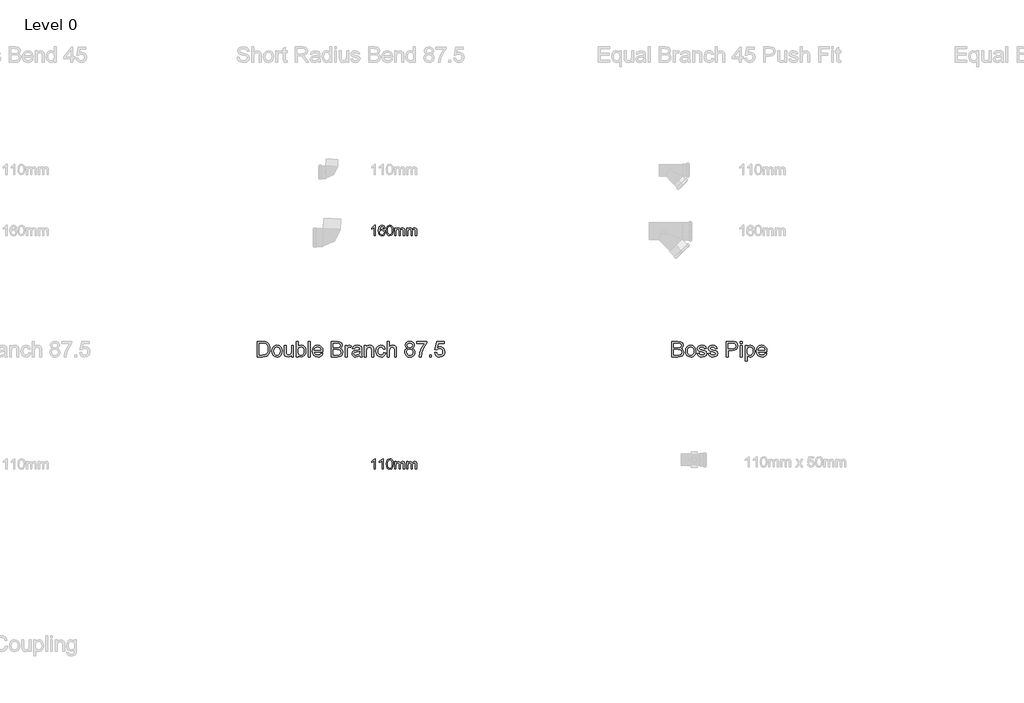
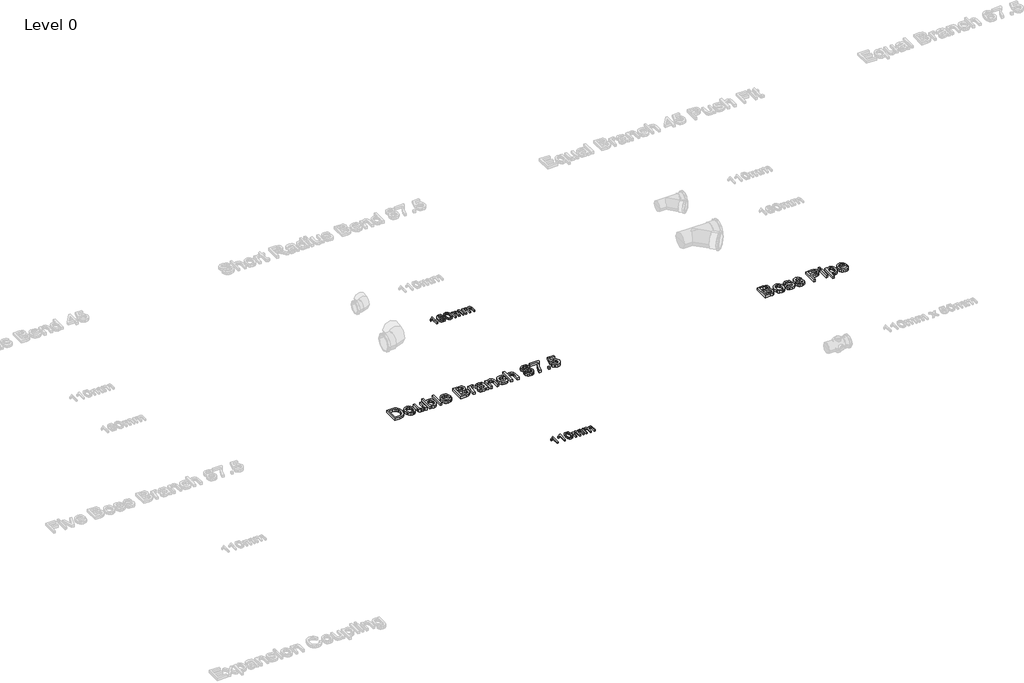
# One storey, part 10 of 15: 4 proxies.
"""IFC4 building model written with IfcOpenShell, lengths in millimetres."""

from ifc_helpers import new_model, si_unit, origin, origin_with_axes, place, context, project, spatial, polyline, outline, extrude, element, save

model = new_model("IFC4")

# Units and contexts
model_context = context("Model", 3, world=origin())
ifc_project = project(units=[si_unit("LENGTHUNIT", "METRE", prefix="MILLI")], contexts=[model_context])

# Site, building, storey
site = spatial("IfcSite", under=ifc_project)
building = spatial("IfcBuilding", under=site)
storey = spatial("IfcBuildingStorey", under=building, Name="Level 0", Elevation=0.0)

# Proxies
placement = place(None, origin())
element("IfcBuildingElementProxy", 1, Name="100mm Arial", ObjectType="100mm Arial", at=placement, inside=storey, context=model_context, shape_type="SweptSolid", body=[
    extrude(outline(polyline([(-3291.7293188, 5437.7167304), (-3304.0370111, 5437.7167304), (-3304.0370111, 5514.4474996), (-3315.6956649, 5506.1422111), (-3328.6523957, 5499.9282688), (-3328.6523957, 5511.5628842), (-3310.6115303, 5523.0773073), (-3299.6620111, 5536.1782688), (-3291.7293188, 5536.1782688), (-3291.7293188, 5437.7167304)])), origin_with_axes(), (0.0, 0.0, 1.0), 15.0),
    extrude(outline(polyline([(-3216.3447034, 5437.7167304), (-3228.6523957, 5437.7167304), (-3228.6523957, 5514.4474996), (-3240.3110495, 5506.1422111), (-3253.2677803, 5499.9282688), (-3253.2677803, 5511.5628842), (-3235.2269149, 5523.0773073), (-3224.2773957, 5536.1782688), (-3216.3447034, 5536.1782688), (-3216.3447034, 5437.7167304)])), origin_with_axes(), (0.0, 0.0, 1.0), 15.0),
    extrude(outline(polyline([(-3187.1139341, 5486.1542304), (-3183.4961457, 5514.4835573), (-3172.7509534, 5530.8176919), (-3154.8062418, 5536.1782688), (-3140.4312418, 5533.0051919), (-3130.5033572, 5523.8585573), (-3124.7341264, 5509.2912496), (-3122.4985495, 5486.1542304), (-3126.0802803, 5457.9450958), (-3136.7894149, 5441.5749035), (-3154.8062418, 5436.1782688), (-3167.5947034, 5438.5220188), (-3177.3062418, 5445.5532688), (-3184.6620111, 5462.2059131), (-3187.1139341, 5486.1542304)]), holes=[polyline([(-3174.8062418, 5486.1782688), (-3173.3639341, 5466.8182929), (-3169.0370111, 5455.613365), (-3162.5947034, 5450.2678121), (-3154.8062418, 5448.4859611), (-3147.0177803, 5450.2738217), (-3140.5754726, 5455.6374035), (-3136.2485495, 5466.848341), (-3134.8062418, 5486.1782688), (-3136.2004726, 5505.1025477), (-3140.3831649, 5516.394615), (-3146.8134534, 5522.0015861), (-3154.9504726, 5523.8705765), (-3162.6547995, 5522.2239419), (-3168.8447034, 5517.2840381), (-3173.3158572, 5505.2888458), (-3174.8062418, 5486.1782688)])]), origin_with_axes(), (0.0, 0.0, 1.0), 15.0),
    extrude(outline(polyline([(-3108.6523957, 5437.7167304), (-3108.6523957, 5510.0244227), (-3096.3447034, 5510.0244227), (-3096.3447034, 5498.1253842), (-3087.8831649, 5507.8729804), (-3075.8398957, 5511.5628842), (-3063.5081649, 5507.800865), (-3056.7293188, 5497.2599996), (-3047.1259534, 5507.9871631), (-3034.9985495, 5511.5628842), (-3025.7467466, 5510.0755044), (-3018.9047995, 5505.613365), (-3014.6770351, 5498.0562736), (-3013.2677803, 5487.2840381), (-3013.2677803, 5437.7167304), (-3025.5754726, 5437.7167304), (-3025.5754726, 5481.9955765), (-3026.7172995, 5492.2720188), (-3030.8519149, 5497.332115), (-3037.8831649, 5499.2551919), (-3049.9865303, 5494.3273073), (-3054.8062418, 5478.5340381), (-3054.8062418, 5437.7167304), (-3067.1139341, 5437.7167304), (-3067.1139341, 5483.3657688), (-3069.9624918, 5495.2888458), (-3079.3014341, 5499.2551919), (-3088.4120111, 5496.6109611), (-3094.4697034, 5488.8705765), (-3096.3447034, 5474.1830765), (-3096.3447034, 5437.7167304), (-3108.6523957, 5437.7167304)])), origin_with_axes(), (0.0, 0.0, 1.0), 15.0),
    extrude(outline(polyline([(-2994.8062418, 5437.7167304), (-2994.8062418, 5510.0244227), (-2982.4985495, 5510.0244227), (-2982.4985495, 5498.1253842), (-2974.0370111, 5507.8729804), (-2961.9937418, 5511.5628842), (-2949.6620111, 5507.800865), (-2942.8831649, 5497.2599996), (-2933.2797995, 5507.9871631), (-2921.1523957, 5511.5628842), (-2911.9005928, 5510.0755044), (-2905.0586457, 5505.613365), (-2900.8308813, 5498.0562736), (-2899.4216264, 5487.2840381), (-2899.4216264, 5437.7167304), (-2911.7293188, 5437.7167304), (-2911.7293188, 5481.9955765), (-2912.8711457, 5492.2720188), (-2917.0057611, 5497.332115), (-2924.0370111, 5499.2551919), (-2936.1403764, 5494.3273073), (-2940.960088, 5478.5340381), (-2940.960088, 5437.7167304), (-2953.2677803, 5437.7167304), (-2953.2677803, 5483.3657688), (-2956.116338, 5495.2888458), (-2965.4552803, 5499.2551919), (-2974.5658572, 5496.6109611), (-2980.6235495, 5488.8705765), (-2982.4985495, 5474.1830765), (-2982.4985495, 5437.7167304), (-2994.8062418, 5437.7167304)])), origin_with_axes(), (0.0, 0.0, 1.0), 15.0),
])
element("IfcBuildingElementProxy", 2, Name="100mm Arial", ObjectType="100mm Arial", at=placement, inside=storey, context=model_context, shape_type="SweptSolid", body=[
    extrude(outline(polyline([(-3291.7293188, 7657.7167304), (-3304.0370111, 7657.7167304), (-3304.0370111, 7734.4474996), (-3315.6956649, 7726.1422111), (-3328.6523957, 7719.9282688), (-3328.6523957, 7731.5628842), (-3310.6115303, 7743.0773073), (-3299.6620111, 7756.1782688), (-3291.7293188, 7756.1782688), (-3291.7293188, 7657.7167304)])), origin_with_axes(), (0.0, 0.0, 1.0), 15.0),
    extrude(outline(polyline([(-3199.4216264, 7730.0244227), (-3211.7293188, 7728.4859611), (-3216.3927803, 7738.7503842), (-3228.7245111, 7743.8705765), (-3239.8302803, 7740.8898073), (-3248.2317226, 7729.6999035), (-3251.7293188, 7707.7648073), (-3240.8759534, 7717.5845188), (-3227.4264341, 7720.7936535), (-3216.0562418, 7718.6001438), (-3206.5129726, 7712.019615), (-3200.0406168, 7701.9655285), (-3197.8831649, 7689.3513458), (-3201.9456649, 7672.3681727), (-3213.1235495, 7660.3489419), (-3229.2533572, 7656.1782688), (-3243.2166986, 7658.9426919), (-3254.3374918, 7667.2359611), (-3261.6121313, 7681.8753842), (-3264.0370111, 7703.6782688), (-3261.3447034, 7728.19149), (-3253.2677803, 7744.9523073), (-3242.2401361, 7753.3717785), (-3227.9552803, 7756.1782688), (-3217.1560014, 7754.44149), (-3208.5081649, 7749.2311535), (-3202.4504726, 7740.9559131), (-3199.4216264, 7730.0244227)]), holes=[polyline([(-3251.7293188, 7689.5436535), (-3248.8807611, 7678.8825958), (-3241.3086457, 7671.1422111), (-3230.2148957, 7668.4859611), (-3222.0929005, 7669.8621631), (-3215.7076841, 7673.9907688), (-3211.5700639, 7680.4811535), (-3210.1908572, 7688.9426919), (-3211.5520351, 7697.0646871), (-3215.6355688, 7703.2575958), (-3230.7197034, 7708.4859611), (-3245.6115303, 7703.2575958), (-3250.1998716, 7697.2149275), (-3251.7293188, 7689.5436535)])]), origin_with_axes(), (0.0, 0.0, 1.0), 15.0),
    extrude(outline(polyline([(-3187.1139341, 7706.1542304), (-3183.4961457, 7734.4835573), (-3172.7509534, 7750.8176919), (-3154.8062418, 7756.1782688), (-3140.4312418, 7753.0051919), (-3130.5033572, 7743.8585573), (-3124.7341264, 7729.2912496), (-3122.4985495, 7706.1542304), (-3126.0802803, 7677.9450958), (-3136.7894149, 7661.5749035), (-3154.8062418, 7656.1782688), (-3167.5947034, 7658.5220188), (-3177.3062418, 7665.5532688), (-3184.6620111, 7682.2059131), (-3187.1139341, 7706.1542304)]), holes=[polyline([(-3174.8062418, 7706.1782688), (-3173.3639341, 7686.8182929), (-3169.0370111, 7675.613365), (-3162.5947034, 7670.2678121), (-3154.8062418, 7668.4859611), (-3147.0177803, 7670.2738217), (-3140.5754726, 7675.6374035), (-3136.2485495, 7686.848341), (-3134.8062418, 7706.1782688), (-3136.2004726, 7725.1025477), (-3140.3831649, 7736.394615), (-3146.8134534, 7742.0015861), (-3154.9504726, 7743.8705765), (-3162.6547995, 7742.2239419), (-3168.8447034, 7737.2840381), (-3173.3158572, 7725.2888458), (-3174.8062418, 7706.1782688)])]), origin_with_axes(), (0.0, 0.0, 1.0), 15.0),
    extrude(outline(polyline([(-3108.6523957, 7657.7167304), (-3108.6523957, 7730.0244227), (-3096.3447034, 7730.0244227), (-3096.3447034, 7718.1253842), (-3087.8831649, 7727.8729804), (-3075.8398957, 7731.5628842), (-3063.5081649, 7727.800865), (-3056.7293188, 7717.2599996), (-3047.1259534, 7727.9871631), (-3034.9985495, 7731.5628842), (-3025.7467466, 7730.0755044), (-3018.9047995, 7725.613365), (-3014.6770351, 7718.0562736), (-3013.2677803, 7707.2840381), (-3013.2677803, 7657.7167304), (-3025.5754726, 7657.7167304), (-3025.5754726, 7701.9955765), (-3026.7172995, 7712.2720188), (-3030.8519149, 7717.332115), (-3037.8831649, 7719.2551919), (-3049.9865303, 7714.3273073), (-3054.8062418, 7698.5340381), (-3054.8062418, 7657.7167304), (-3067.1139341, 7657.7167304), (-3067.1139341, 7703.3657688), (-3069.9624918, 7715.2888458), (-3079.3014341, 7719.2551919), (-3088.4120111, 7716.6109611), (-3094.4697034, 7708.8705765), (-3096.3447034, 7694.1830765), (-3096.3447034, 7657.7167304), (-3108.6523957, 7657.7167304)])), origin_with_axes(), (0.0, 0.0, 1.0), 15.0),
    extrude(outline(polyline([(-2994.8062418, 7657.7167304), (-2994.8062418, 7730.0244227), (-2982.4985495, 7730.0244227), (-2982.4985495, 7718.1253842), (-2974.0370111, 7727.8729804), (-2961.9937418, 7731.5628842), (-2949.6620111, 7727.800865), (-2942.8831649, 7717.2599996), (-2933.2797995, 7727.9871631), (-2921.1523957, 7731.5628842), (-2911.9005928, 7730.0755044), (-2905.0586457, 7725.613365), (-2900.8308813, 7718.0562736), (-2899.4216264, 7707.2840381), (-2899.4216264, 7657.7167304), (-2911.7293188, 7657.7167304), (-2911.7293188, 7701.9955765), (-2912.8711457, 7712.2720188), (-2917.0057611, 7717.332115), (-2924.0370111, 7719.2551919), (-2936.1403764, 7714.3273073), (-2940.960088, 7698.5340381), (-2940.960088, 7657.7167304), (-2953.2677803, 7657.7167304), (-2953.2677803, 7703.3657688), (-2956.116338, 7715.2888458), (-2965.4552803, 7719.2551919), (-2974.5658572, 7716.6109611), (-2980.6235495, 7708.8705765), (-2982.4985495, 7694.1830765), (-2982.4985495, 7657.7167304), (-2994.8062418, 7657.7167304)])), origin_with_axes(), (0.0, 0.0, 1.0), 15.0),
])
element("IfcBuildingElementProxy", 3, Name="150mm Arial", ObjectType="150mm Arial", at=placement, inside=storey, context=model_context, shape_type="SweptSolid", body=[
    extrude(outline(polyline([(-474.4510666, 6505.2145219), (-474.4510666, 6652.9068296), (-418.0928935, 6652.9068296), (-390.49073, 6648.5618777), (-381.2148887, 6643.049558), (-374.1926531, 6635.2025027), (-368.2972204, 6616.3082719), (-373.2551531, 6599.0546661), (-388.2371243, 6585.9837527), (-377.7758863, 6580.5210123), (-370.0460185, 6572.2097142), (-365.2728815, 6561.5997383), (-363.6818358, 6549.2409642), (-368.0267877, 6529.3912046), (-378.7900089, 6515.2565892), (-394.8537108, 6507.7565892), (-418.5255858, 6505.2145219), (-474.4510666, 6505.2145219)]), holes=[polyline([(-455.9895281, 6523.6760604), (-418.1289512, 6523.6760604), (-404.4270281, 6524.3972142), (-392.83448, 6528.4176469), (-385.1541916, 6536.6207719), (-382.1433743, 6549.0606758), (-385.6770281, 6563.4116373), (-397.1253454, 6571.9753392), (-419.9318358, 6574.4452911), (-455.9895281, 6574.4452911), (-455.9895281, 6523.6760604)]), polyline([(-455.9895281, 6592.9068296), (-422.2755858, 6592.9068296), (-402.5880858, 6594.4933681), (-390.7431339, 6601.3263008), (-386.7587589, 6613.3515411), (-390.4727012, 6625.3948104), (-401.1097204, 6632.5162046), (-424.835682, 6634.4452911), (-455.9895281, 6634.4452911), (-455.9895281, 6592.9068296)])]), origin_with_axes(), (0.0, 0.0, 1.0), 25.0),
    extrude(outline(polyline([(-345.2202973, 6559.4452911), (-341.2269079, 6585.5961325), (-329.2467397, 6603.9765411), (-314.445057, 6612.9819498), (-296.7227012, 6615.9837527), (-277.3281699, 6612.3284041), (-261.8368839, 6601.3623585), (-251.6821363, 6583.9510003), (-248.2972204, 6560.9597142), (-249.7936147, 6542.3088729), (-254.2827973, 6528.1111565), (-261.6340594, 6517.4786445), (-271.7166916, 6509.5234161), (-283.6923526, 6504.5609762), (-296.7227012, 6502.9068296), (-316.3516074, 6506.5486565), (-331.8248647, 6517.4741373), (-341.8714392, 6535.2505796), (-345.2202973, 6559.4452911)]), holes=[polyline([(-326.7587589, 6559.4813488), (-324.6223406, 6542.7731157), (-318.2130858, 6530.86957), (-308.5676531, 6523.7436686), (-296.7227012, 6521.3683681), (-284.9318358, 6523.7571902), (-275.304432, 6530.9236565), (-268.8951772, 6542.9849546), (-266.7587589, 6560.0582719), (-268.9086988, 6576.2797262), (-275.3585185, 6588.0210123), (-284.999444, 6595.1469137), (-296.7227012, 6597.5222142), (-308.5676531, 6595.1559282), (-318.2130858, 6588.05707), (-324.6223406, 6576.1805676), (-326.7587589, 6559.4813488)])]), origin_with_axes(), (0.0, 0.0, 1.0), 25.0),
    extrude(outline(polyline([(-234.4510666, 6537.5222142), (-215.9895281, 6539.8299065), (-213.0778695, 6531.9332719), (-207.443855, 6526.1279835), (-187.8645281, 6521.3683681), (-169.0424127, 6525.7313488), (-162.912605, 6535.9717335), (-169.0784704, 6544.2650027), (-188.0808743, 6549.5294258), (-215.881355, 6558.5618777), (-228.0147685, 6569.1087527), (-232.1433743, 6584.0005796), (-228.8260666, 6597.7565892), (-219.7755858, 6608.2674065), (-208.038807, 6613.7301469), (-192.1553935, 6615.9837527), (-169.6914512, 6612.3599546), (-155.412605, 6602.5522623), (-149.0664512, 6585.9837527), (-167.5279897, 6583.6760604), (-174.4690954, 6593.8623585), (-190.7130858, 6597.5222142), (-208.381355, 6594.0246181), (-213.6818358, 6585.8755796), (-211.4823166, 6580.5029835), (-204.5952973, 6576.4284642), (-188.693855, 6572.4981758), (-161.5964993, 6563.8082719), (-149.0123647, 6553.9645219), (-144.4510666, 6537.9188488), (-149.8056339, 6520.2505796), (-165.256355, 6507.43207), (-188.116932, 6502.9068296), (-206.7317156, 6505.08832), (-220.3164512, 6511.6327911), (-229.3849608, 6522.4681277), (-234.4510666, 6537.5222142)])), origin_with_axes(), (0.0, 0.0, 1.0), 25.0),
    extrude(outline(polyline([(-130.6049127, 6537.5222142), (-112.1433743, 6539.8299065), (-109.2317156, 6531.9332719), (-103.5977012, 6526.1279835), (-84.0183743, 6521.3683681), (-65.1962589, 6525.7313488), (-59.0664512, 6535.9717335), (-65.2323166, 6544.2650027), (-84.2347204, 6549.5294258), (-112.0352012, 6558.5618777), (-124.1686147, 6569.1087527), (-128.2972204, 6584.0005796), (-124.9799127, 6597.7565892), (-115.929432, 6608.2674065), (-104.1926531, 6613.7301469), (-88.3092397, 6615.9837527), (-65.8452973, 6612.3599546), (-51.5664512, 6602.5522623), (-45.2202973, 6585.9837527), (-63.6818358, 6583.6760604), (-70.6229416, 6593.8623585), (-86.866932, 6597.5222142), (-104.5352012, 6594.0246181), (-109.835682, 6585.8755796), (-107.6361627, 6580.5029835), (-100.7491435, 6576.4284642), (-84.8477012, 6572.4981758), (-57.7503454, 6563.8082719), (-45.1662108, 6553.9645219), (-40.6049127, 6537.9188488), (-45.95948, 6520.2505796), (-61.4102012, 6507.43207), (-84.2707781, 6502.9068296), (-102.8855618, 6505.08832), (-116.4702973, 6511.6327911), (-125.538807, 6522.4681277), (-130.6049127, 6537.5222142)])), origin_with_axes(), (0.0, 0.0, 1.0), 25.0),
    extrude(outline(polyline([(40.164318, 6505.2145219), (40.164318, 6652.9068296), (94.899895, 6652.9068296), (116.9672027, 6651.5005796), (134.9059046, 6644.5955315), (146.5345103, 6630.3166854), (150.9335488, 6610.1784642), (147.9632964, 6592.7716133), (139.0525392, 6578.2674065), (122.3893781, 6568.4777431), (96.1619142, 6565.2145219), (58.6258565, 6565.2145219), (58.6258565, 6505.2145219), (40.164318, 6505.2145219)]), holes=[polyline([(58.6258565, 6583.6760604), (97.243645, 6583.6760604), (113.6138373, 6585.3707719), (124.431145, 6590.4549065), (130.461794, 6598.6129594), (132.4720103, 6609.5294258), (127.7304238, 6624.8178873), (115.2724911, 6633.1832719), (96.8109527, 6634.4452911), (58.6258565, 6634.4452911), (58.6258565, 6583.6760604)])]), origin_with_axes(), (0.0, 0.0, 1.0), 25.0),
    extrude(outline(polyline([(174.0104719, 6505.2145219), (174.0104719, 6613.6760604), (192.4720103, 6613.6760604), (192.4720103, 6505.2145219), (174.0104719, 6505.2145219)])), origin_with_axes(), (0.0, 0.0, 1.0), 25.0),
    extrude(outline(polyline([(174.0104719, 6634.4452911), (174.0104719, 6652.9068296), (192.4720103, 6652.9068296), (192.4720103, 6634.4452911), (174.0104719, 6634.4452911)])), origin_with_axes(), (0.0, 0.0, 1.0), 25.0),
    extrude(outline(polyline([(220.164318, 6463.6760604), (220.164318, 6613.6760604), (238.6258565, 6613.6760604), (238.6258565, 6595.5750988), (251.3902796, 6610.8815892), (268.6258565, 6615.9837527), (281.1108325, 6614.1988969), (292.0272988, 6608.8443296), (300.91552, 6600.24457), (307.3157603, 6588.7241373), (312.4720103, 6560.2746181), (311.016181, 6544.4858561), (306.648693, 6530.3647623), (299.50927, 6518.6279835), (289.7376353, 6509.9921661), (278.3569262, 6504.6781637), (266.3902796, 6502.9068296), (250.3265777, 6507.6484161), (238.6258565, 6519.6375988), (238.6258565, 6463.6760604), (220.164318, 6463.6760604)]), holes=[polyline([(238.6258565, 6558.5799065), (240.6225512, 6542.0294258), (246.6126353, 6530.4549065), (255.4512772, 6523.6400027), (265.993645, 6521.3683681), (276.7072868, 6523.7211325), (285.7712892, 6530.7794258), (291.9506762, 6542.7776229), (294.0104719, 6559.9500988), (292.0002555, 6576.4104354), (285.9696065, 6588.1472142), (277.1444863, 6595.1784642), (266.7508565, 6597.5222142), (256.3166618, 6595.0297262), (247.1535007, 6587.5522623), (240.7577676, 6575.3241974), (238.6258565, 6558.5799065)])]), origin_with_axes(), (0.0, 0.0, 1.0), 25.0),
    extrude(outline(polyline([(409.1787411, 6537.5222142), (427.2797027, 6535.2145219), (420.7577676, 6521.5756998), (410.3506161, 6511.3803873), (396.2926233, 6505.025219), (378.8181642, 6502.9068296), (357.1565055, 6506.5621782), (340.4888373, 6517.5282238), (329.8608325, 6535.0928272), (326.3181642, 6558.5438488), (329.8968902, 6582.7836325), (340.633068, 6600.9116373), (357.0753757, 6612.2157238), (377.7724911, 6615.9837527), (397.8250753, 6612.2247383), (413.8482123, 6600.947695), (424.3545224, 6582.8557479), (427.8566257, 6558.6520219), (427.7484527, 6553.6760604), (344.7797027, 6553.6760604), (347.9753156, 6539.8569498), (355.398693, 6529.697695), (366.1123349, 6523.4506998), (379.1787411, 6521.3683681), (397.2797027, 6525.2265411), (409.1787411, 6537.5222142)]), holes=[polyline([(344.7797027, 6572.1375988), (409.3950873, 6572.1375988), (406.8980921, 6581.8912046), (402.0032603, 6588.8683681), (391.2400392, 6595.3587527), (377.7003757, 6597.5222142), (365.2559647, 6595.7959522), (354.9660007, 6590.6171661), (347.813056, 6582.5447503), (344.7797027, 6572.1375988)])]), origin_with_axes(), (0.0, 0.0, 1.0), 25.0),
])
element("IfcBuildingElementProxy", 4, Name="150mm Arial", ObjectType="150mm Arial", at=placement, inside=storey, context=model_context, shape_type="SweptSolid", body=[
    extrude(outline(polyline([(-4416.3741435, 6505.2145219), (-4416.3741435, 6652.9068296), (-4365.4246243, 6652.9068296), (-4339.0664512, 6650.7794258), (-4317.3597204, 6640.2145219), (-4307.1463791, 6628.9645219), (-4299.8717397, 6614.9741373), (-4295.5177733, 6598.5138008), (-4294.0664512, 6579.853945), (-4297.9967397, 6550.0522623), (-4308.0928935, 6528.5438488), (-4321.5784704, 6515.1484161), (-4339.2287108, 6507.7385604), (-4362.9727012, 6505.2145219), (-4416.3741435, 6505.2145219)]), holes=[polyline([(-4397.912605, 6523.6760604), (-4365.2443358, 6523.6760604), (-4341.4823166, 6526.3443296), (-4327.7803935, 6533.8803873), (-4316.5484223, 6552.2157238), (-4312.5279897, 6580.1424065), (-4314.4976411, 6600.2625988), (-4320.4065954, 6615.1183681), (-4329.1370642, 6625.322695), (-4339.5712589, 6631.4885604), (-4365.7491435, 6634.4452911), (-4397.912605, 6634.4452911), (-4397.912605, 6523.6760604)])]), origin_with_axes(), (0.0, 0.0, 1.0), 25.0),
    extrude(outline(polyline([(-4275.6049127, 6559.4452911), (-4271.6115233, 6585.5961325), (-4259.631355, 6603.9765411), (-4244.8296723, 6612.9819498), (-4227.1073166, 6615.9837527), (-4207.7127853, 6612.3284041), (-4192.2214993, 6601.3623585), (-4182.0667517, 6583.9510003), (-4178.6818358, 6560.9597142), (-4180.17823, 6542.3088729), (-4184.6674127, 6528.1111565), (-4192.0186747, 6517.4786445), (-4202.101307, 6509.5234161), (-4214.076968, 6504.5609762), (-4227.1073166, 6502.9068296), (-4246.7362228, 6506.5486565), (-4262.20948, 6517.4741373), (-4272.2560546, 6535.2505796), (-4275.6049127, 6559.4452911)]), holes=[polyline([(-4257.1433743, 6559.4813488), (-4255.006956, 6542.7731157), (-4248.5977012, 6530.86957), (-4238.9522685, 6523.7436686), (-4227.1073166, 6521.3683681), (-4215.3164512, 6523.7571902), (-4205.6890473, 6530.9236565), (-4199.2797925, 6542.9849546), (-4197.1433743, 6560.0582719), (-4199.2933142, 6576.2797262), (-4205.7431339, 6588.0210123), (-4215.3840594, 6595.1469137), (-4227.1073166, 6597.5222142), (-4238.9522685, 6595.1559282), (-4248.5977012, 6588.05707), (-4255.006956, 6576.1805676), (-4257.1433743, 6559.4813488)])]), origin_with_axes(), (0.0, 0.0, 1.0), 25.0),
    extrude(outline(polyline([(-4088.6818358, 6505.2145219), (-4088.6818358, 6523.8563488), (-4103.1409704, 6508.1442094), (-4121.9991435, 6502.9068296), (-4139.3609223, 6506.5847142), (-4151.3320762, 6515.8154835), (-4156.8308743, 6529.4092335), (-4157.912605, 6546.572695), (-4157.912605, 6613.6760604), (-4139.4510666, 6613.6760604), (-4139.4510666, 6555.2625988), (-4138.3332781, 6536.4404835), (-4131.0315954, 6525.3888008), (-4117.2755858, 6521.3683681), (-4101.8609223, 6525.478945), (-4091.6746243, 6536.6748585), (-4088.6818358, 6557.2457719), (-4088.6818358, 6613.6760604), (-4070.2202973, 6613.6760604), (-4070.2202973, 6505.2145219), (-4088.6818358, 6505.2145219)])), origin_with_axes(), (0.0, 0.0, 1.0), 25.0),
    extrude(outline(polyline([(-4026.3741435, 6505.2145219), (-4044.835682, 6505.2145219), (-4044.835682, 6652.9068296), (-4026.3741435, 6652.9068296), (-4026.3741435, 6598.135195), (-4013.4474608, 6611.5216133), (-3997.3837589, 6615.9837527), (-3978.8861627, 6611.96332), (-3964.5352012, 6600.6592335), (-3955.7190954, 6583.0811085), (-3952.5279897, 6561.0678873), (-3955.8317757, 6536.4224546), (-3965.7431339, 6518.0871181), (-3980.2879055, 6506.7019017), (-3997.491932, 6502.9068296), (-4013.9071964, 6507.8016613), (-4026.3741435, 6522.4861565), (-4026.3741435, 6505.2145219)]), holes=[polyline([(-4026.3741435, 6560.2025027), (-4025.1121243, 6544.8058681), (-4021.3260666, 6534.385195), (-4011.6535906, 6524.6225748), (-3999.0784704, 6521.3683681), (-3988.4234223, 6523.7662046), (-3979.318855, 6530.9597142), (-3973.0718598, 6542.9038248), (-3970.9895281, 6559.5534642), (-3972.9862228, 6576.4464931), (-3978.976307, 6588.2553873), (-3987.7969199, 6595.2055075), (-3998.2852012, 6597.5222142), (-4008.9402493, 6595.1243777), (-4018.0448166, 6587.9308681), (-4024.2918118, 6576.2031036), (-4026.3741435, 6560.2025027)])]), origin_with_axes(), (0.0, 0.0, 1.0), 25.0),
    extrude(outline(polyline([(-3931.7587589, 6505.2145219), (-3931.7587589, 6652.9068296), (-3913.2972204, 6652.9068296), (-3913.2972204, 6505.2145219), (-3931.7587589, 6505.2145219)])), origin_with_axes(), (0.0, 0.0, 1.0), 25.0),
    extrude(outline(polyline([(-3809.6674127, 6537.5222142), (-3791.5664512, 6535.2145219), (-3798.0883863, 6521.5756998), (-3808.4955377, 6511.3803873), (-3822.5535305, 6505.025219), (-3840.0279897, 6502.9068296), (-3861.6896483, 6506.5621782), (-3878.3573166, 6517.5282238), (-3888.9853214, 6535.0928272), (-3892.5279897, 6558.5438488), (-3888.9492637, 6582.7836325), (-3878.2130858, 6600.9116373), (-3861.7707781, 6612.2157238), (-3841.0736627, 6615.9837527), (-3821.0210786, 6612.2247383), (-3804.9979416, 6600.947695), (-3794.4916315, 6582.8557479), (-3790.9895281, 6558.6520219), (-3791.0977012, 6553.6760604), (-3874.0664512, 6553.6760604), (-3870.8708382, 6539.8569498), (-3863.4474608, 6529.697695), (-3852.733819, 6523.4506998), (-3839.6674127, 6521.3683681), (-3821.5664512, 6525.2265411), (-3809.6674127, 6537.5222142)]), holes=[polyline([(-3874.0664512, 6572.1375988), (-3809.4510666, 6572.1375988), (-3811.9480618, 6581.8912046), (-3816.8428935, 6588.8683681), (-3827.6061147, 6595.3587527), (-3841.1457781, 6597.5222142), (-3853.5901892, 6595.7959522), (-3863.8801531, 6590.6171661), (-3871.0330978, 6582.5447503), (-3874.0664512, 6572.1375988)])]), origin_with_axes(), (0.0, 0.0, 1.0), 25.0),
    extrude(outline(polyline([(-3712.5279897, 6505.2145219), (-3712.5279897, 6652.9068296), (-3656.1698166, 6652.9068296), (-3628.5676531, 6648.5618777), (-3619.2918118, 6643.049558), (-3612.2695762, 6635.2025027), (-3606.3741435, 6616.3082719), (-3611.3320762, 6599.0546661), (-3626.3140473, 6585.9837527), (-3615.8528094, 6580.5210123), (-3608.1229416, 6572.2097142), (-3603.3498046, 6561.5997383), (-3601.7587589, 6549.2409642), (-3606.1037108, 6529.3912046), (-3616.866932, 6515.2565892), (-3632.9306339, 6507.7565892), (-3656.6025089, 6505.2145219), (-3712.5279897, 6505.2145219)]), holes=[polyline([(-3694.0664512, 6523.6760604), (-3656.2058743, 6523.6760604), (-3642.5039512, 6524.3972142), (-3630.9114031, 6528.4176469), (-3623.2311147, 6536.6207719), (-3620.2202973, 6549.0606758), (-3623.7539512, 6563.4116373), (-3635.2022685, 6571.9753392), (-3658.0087589, 6574.4452911), (-3694.0664512, 6574.4452911), (-3694.0664512, 6523.6760604)]), polyline([(-3694.0664512, 6592.9068296), (-3660.3525089, 6592.9068296), (-3640.6650089, 6594.4933681), (-3628.820057, 6601.3263008), (-3624.835682, 6613.3515411), (-3628.5496243, 6625.3948104), (-3639.1866435, 6632.5162046), (-3662.912605, 6634.4452911), (-3694.0664512, 6634.4452911), (-3694.0664512, 6592.9068296)])]), origin_with_axes(), (0.0, 0.0, 1.0), 25.0),
    extrude(outline(polyline([(-3578.6818358, 6505.2145219), (-3578.6818358, 6613.6760604), (-3562.5279897, 6613.6760604), (-3562.5279897, 6597.6303873), (-3551.0616435, 6612.4140411), (-3539.523182, 6615.9837527), (-3520.9895281, 6610.2866373), (-3527.1553935, 6593.7361565), (-3540.1361627, 6597.5222142), (-3550.5748647, 6593.8803873), (-3557.2275089, 6583.7842335), (-3560.2202973, 6562.2217335), (-3560.2202973, 6505.2145219), (-3578.6818358, 6505.2145219)])), origin_with_axes(), (0.0, 0.0, 1.0), 25.0),
    extrude(outline(polyline([(-3440.2202973, 6519.0606758), (-3458.1229416, 6506.5486565), (-3477.9005858, 6502.9068296), (-3493.3287709, 6505.0973344), (-3504.70948, 6511.6688488), (-3511.7272084, 6521.6478152), (-3514.0664512, 6534.0606758), (-3510.5327973, 6548.6640411), (-3501.2479416, 6559.2650027), (-3488.3212589, 6565.322695), (-3472.3477012, 6568.0991373), (-3440.3284704, 6574.4452911), (-3440.2202973, 6578.5558681), (-3441.491331, 6586.7950508), (-3445.304432, 6592.1856758), (-3453.8320762, 6596.1880796), (-3465.7130858, 6597.5222142), (-3484.3909704, 6593.9705315), (-3493.2972204, 6581.3683681), (-3511.7587589, 6583.6760604), (-3503.77198, 6601.7049065), (-3487.6902493, 6612.2698104), (-3463.3332781, 6615.9837527), (-3440.95948, 6612.7025027), (-3428.3212589, 6604.46332), (-3422.6602012, 6591.9332719), (-3421.7587589, 6575.7794258), (-3421.7587589, 6552.8106758), (-3420.8212589, 6520.7373585), (-3417.1433743, 6505.2145219), (-3435.6049127, 6505.2145219), (-3440.2202973, 6519.0606758)]), holes=[polyline([(-3440.2202973, 6555.9837527), (-3470.0039512, 6550.322695), (-3485.8873647, 6547.3299065), (-3493.0808743, 6542.4621181), (-3495.6049127, 6535.3587527), (-3490.1061147, 6525.3707719), (-3473.9702973, 6521.3683681), (-3455.2924127, 6525.7854354), (-3443.2491435, 6536.4765411), (-3440.3284704, 6550.7553873), (-3440.2202973, 6555.9837527)])]), origin_with_axes(), (0.0, 0.0, 1.0), 25.0),
    extrude(outline(polyline([(-3396.3741435, 6505.2145219), (-3396.3741435, 6613.6760604), (-3377.912605, 6613.6760604), (-3377.912605, 6598.5318296), (-3363.7960185, 6611.6207719), (-3344.523182, 6615.9837527), (-3327.0892877, 6612.4681277), (-3315.1902493, 6603.2373585), (-3309.6553935, 6589.6616373), (-3308.6818358, 6571.8130796), (-3308.6818358, 6505.2145219), (-3327.1433743, 6505.2145219), (-3327.1433743, 6569.3250988), (-3329.2707781, 6585.6592335), (-3336.788807, 6594.2950508), (-3349.4630858, 6597.5222142), (-3360.2758863, 6595.7103152), (-3369.4931339, 6590.2746181), (-3375.8077372, 6579.7728152), (-3377.912605, 6562.7625988), (-3377.912605, 6505.2145219), (-3396.3741435, 6505.2145219)])), origin_with_axes(), (0.0, 0.0, 1.0), 25.0),
    extrude(outline(polyline([(-3214.0664512, 6544.4452911), (-3195.6049127, 6542.1375988), (-3200.7521483, 6525.7178272), (-3210.4246243, 6513.3094738), (-3223.7118839, 6505.5074907), (-3239.7034704, 6502.9068296), (-3259.3413911, 6506.5351349), (-3274.6974608, 6517.4200508), (-3284.608819, 6535.0838128), (-3287.912605, 6559.0486565), (-3282.2695762, 6589.7157238), (-3275.148182, 6601.2136205), (-3265.070057, 6609.4212527), (-3253.0132661, 6614.3431277), (-3239.9558743, 6615.9837527), (-3224.3564151, 6613.7301469), (-3211.8849608, 6606.9693296), (-3202.9381459, 6596.0618777), (-3197.912605, 6581.3683681), (-3216.3741435, 6579.0606758), (-3224.9378454, 6592.8888008), (-3239.8116435, 6597.5222142), (-3251.7422324, 6595.2415652), (-3261.2118839, 6588.3996181), (-3267.3912709, 6576.6267815), (-3269.4510666, 6559.5534642), (-3267.436343, 6542.2502791), (-3261.3921723, 6530.4368777), (-3252.0937949, 6523.6354955), (-3240.3164512, 6521.3683681), (-3230.7566555, 6522.7836325), (-3222.9186147, 6527.0294258), (-3217.2169921, 6534.213921), (-3214.0664512, 6544.4452911)])), origin_with_axes(), (0.0, 0.0, 1.0), 25.0),
    extrude(outline(polyline([(-3179.4510666, 6505.2145219), (-3179.4510666, 6652.9068296), (-3160.9895281, 6652.9068296), (-3160.9895281, 6598.603945), (-3146.5934945, 6611.6388008), (-3128.8621243, 6615.9837527), (-3108.1289512, 6611.2421661), (-3095.5448166, 6598.135195), (-3091.7587589, 6573.8683681), (-3091.7587589, 6505.2145219), (-3110.2202973, 6505.2145219), (-3110.2202973, 6571.9573104), (-3111.6896483, 6583.5138008), (-3116.0977012, 6591.4284642), (-3123.2010666, 6595.9987767), (-3132.756355, 6597.5222142), (-3147.882557, 6593.4116373), (-3157.9787108, 6582.2698104), (-3160.9895281, 6562.8347142), (-3160.9895281, 6505.2145219), (-3179.4510666, 6505.2145219)])), origin_with_axes(), (0.0, 0.0, 1.0), 25.0),
    extrude(outline(polyline([(-2986.398182, 6586.5606758), (-3003.2190954, 6598.0270219), (-3008.6818358, 6615.8755796), (-3005.7070762, 6630.307671), (-2996.7827973, 6642.2337527), (-2982.9096002, 6650.2385604), (-2965.0880858, 6652.9068296), (-2947.1583983, 6650.1754594), (-2933.1049127, 6641.9813488), (-2924.0183743, 6629.8659642), (-2920.9895281, 6615.3707719), (-2926.3801531, 6597.9729354), (-2942.7323166, 6586.5606758), (-2931.3696363, 6580.705808), (-2923.0989031, 6572.0835123), (-2918.0553334, 6561.1084522), (-2916.3741435, 6548.1952911), (-2919.70948, 6530.5450508), (-2929.7154897, 6515.9597142), (-2945.1662108, 6506.1700508), (-2964.835682, 6502.9068296), (-2984.5051531, 6506.1835724), (-2999.9558743, 6516.0138008), (-3009.9618839, 6530.7388609), (-3013.2972204, 6548.7000988), (-3011.5484223, 6562.1135604), (-3006.3020281, 6573.1472142), (-2997.8284704, 6581.4224546), (-2986.398182, 6586.5606758)]), holes=[polyline([(-2994.835682, 6549.3491373), (-2991.7527493, 6535.4488969), (-2980.8452973, 6525.0462527), (-2964.6914512, 6521.3683681), (-2952.1253454, 6523.3019618), (-2942.6962589, 6529.1027431), (-2936.8008262, 6537.8872984), (-2934.835682, 6548.7722142), (-2936.8639272, 6559.8419258), (-2942.9486627, 6568.8202911), (-2952.5940954, 6574.7698104), (-2965.304432, 6576.7529835), (-2977.6947565, 6574.7968536), (-2987.0291916, 6568.9284642), (-2992.8840594, 6560.1213729), (-2994.835682, 6549.3491373)]), polyline([(-2990.2202973, 6615.3347142), (-2988.5841796, 6607.27582), (-2983.6758262, 6600.8395219), (-2975.639468, 6596.6207719), (-2964.6193358, 6595.2145219), (-2953.8561147, 6596.6117575), (-2945.9414512, 6600.8034642), (-2941.0736627, 6607.0234161), (-2939.4510666, 6614.5053873), (-2941.1277493, 6622.2713128), (-2946.1577973, 6628.6940892), (-2954.1806339, 6633.0074907), (-2964.835682, 6634.4452911), (-2975.5583382, 6633.0390411), (-2983.5676531, 6628.8202911), (-2988.5571363, 6622.6363969), (-2990.2202973, 6615.3347142)])]), origin_with_axes(), (0.0, 0.0, 1.0), 25.0),
    extrude(outline(polyline([(-2900.2202973, 6632.1375988), (-2900.2202973, 6650.5991373), (-2803.2972204, 6650.5991373), (-2803.2972204, 6635.6712527), (-2830.7912108, 6595.9537046), (-2851.8308743, 6545.3467335), (-2858.6818358, 6505.2145219), (-2877.1433743, 6505.2145219), (-2869.8056339, 6546.8611565), (-2849.6674127, 6593.9344738), (-2821.7587589, 6632.1375988), (-2900.2202973, 6632.1375988)])), origin_with_axes(), (0.0, 0.0, 1.0), 25.0),
    extrude(outline(polyline([(-2777.912605, 6505.2145219), (-2777.912605, 6523.6760604), (-2759.4510666, 6523.6760604), (-2759.4510666, 6505.2145219), (-2777.912605, 6505.2145219)])), origin_with_axes(), (0.0, 0.0, 1.0), 25.0),
    extrude(outline(polyline([(-2729.4510666, 6544.4452911), (-2710.9895281, 6546.7529835), (-2707.600105, 6535.6697503), (-2701.6866435, 6527.7325508), (-2693.2761868, 6522.9594137), (-2682.3957781, 6521.3683681), (-2669.162605, 6523.5814089), (-2659.2467397, 6530.2205315), (-2653.053831, 6540.5195099), (-2650.9895281, 6553.7121181), (-2652.9231219, 6566.1339931), (-2658.7239031, 6575.635195), (-2668.436944, 6581.665844), (-2682.1073166, 6583.6760604), (-2698.3152493, 6580.4669258), (-2708.6818358, 6572.1375988), (-2727.1433743, 6574.4452911), (-2710.9895281, 6650.5991373), (-2639.4510666, 6650.5991373), (-2639.4510666, 6632.1375988), (-2696.0616435, 6632.1375988), (-2703.9582781, 6591.4645219), (-2690.7701772, 6599.4693296), (-2676.9510666, 6602.1375988), (-2659.701968, 6598.8293056), (-2645.382557, 6588.9044258), (-2635.7416315, 6573.7782238), (-2632.5279897, 6554.8659642), (-2635.4216195, 6536.4044258), (-2644.1025089, 6520.6111565), (-2660.725105, 6507.3329113), (-2682.4678935, 6502.9068296), (-2700.6004055, 6505.7508801), (-2715.0460185, 6514.2830315), (-2724.9483622, 6527.5116974), (-2729.4510666, 6544.4452911)])), origin_with_axes(), (0.0, 0.0, 1.0), 25.0),
])

save(model, "model.ifc")
